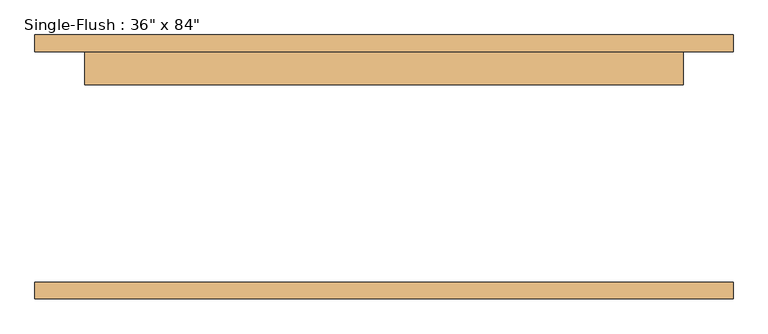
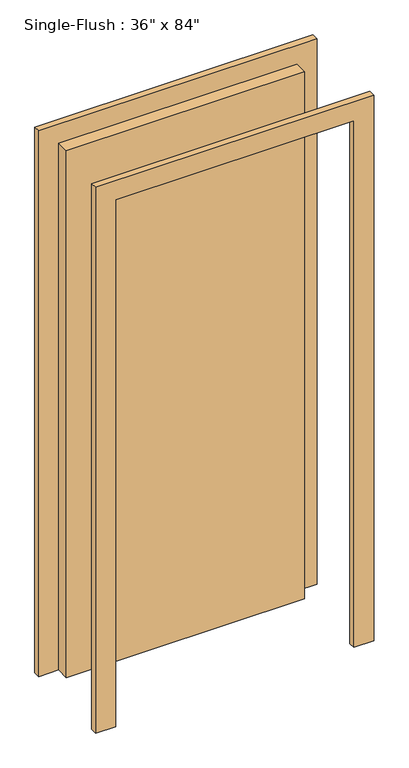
"""IFC4 building model written with IfcOpenShell, lengths in millimetres: door geometry."""

from ifc_helpers import new_model, si_unit, frame, origin, origin_with_axes, place, context, project, spatial, polyline, outline, extrude, source, transform, mapped, element, save


def door_632be17d(model_context):
    return source(origin(), model_context, "Body", "SweptSolid", [
        extrude(outline(polyline([(2209.8, -533.4), (0.0, -533.4), (0.0, -457.2), (2133.6, -457.2), (2133.6, 457.2), (0.0, 457.2), (0.0, 533.4), (2209.8, 533.4), (2209.8, -533.4)])), frame((0.0, 176.2125, 0.0), z_axis=(0.0, 1.0, 0.0), x_axis=(0.0, 0.0, 1.0)), (0.0, 0.0, 1.0), 25.4),
        extrude(outline(polyline([(2209.8, 533.4), (2209.8, -533.4), (0.0, -533.4), (0.0, -457.2), (2133.6, -457.2), (2133.6, 457.2), (0.0, 457.2), (0.0, 533.4), (2209.8, 533.4)])), frame((0.0, -201.6125, 0.0), z_axis=(0.0, 1.0, 0.0), x_axis=(0.0, 0.0, 1.0)), (0.0, 0.0, 1.0), 25.4),
        extrude(outline(polyline([(457.2, 125.4125), (-457.2, 125.4125), (-457.2, 176.2125), (457.2, 176.2125), (457.2, 125.4125)])), origin_with_axes(), (0.0, 0.0, 1.0), 2133.6),
    ])


if __name__ == "__main__":
    model = new_model("IFC4")
    model_context = context("Model", 3, world=origin())
    ifc_project = project(units=[si_unit("LENGTHUNIT", "METRE", prefix="MILLI")], contexts=[model_context])
    site = spatial("IfcSite", under=ifc_project)
    building = spatial("IfcBuilding", under=site)
    placement = place(None, origin())
    door_shape = door_632be17d(model_context)
    element("IfcDoor", 1, ObjectType="Single-Flush : 36\" x 84\"", at=placement, inside=building, context=model_context, shape_type="MappedRepresentation", body=[
        mapped(door_shape, transform((0.0, 0.0, 0.0), x_axis=(1.0, 0.0, 0.0), y_axis=(0.0, 1.0, 0.0), z_axis=(0.0, 0.0, 1.0))),
    ])
    save(model, "model.ifc")
